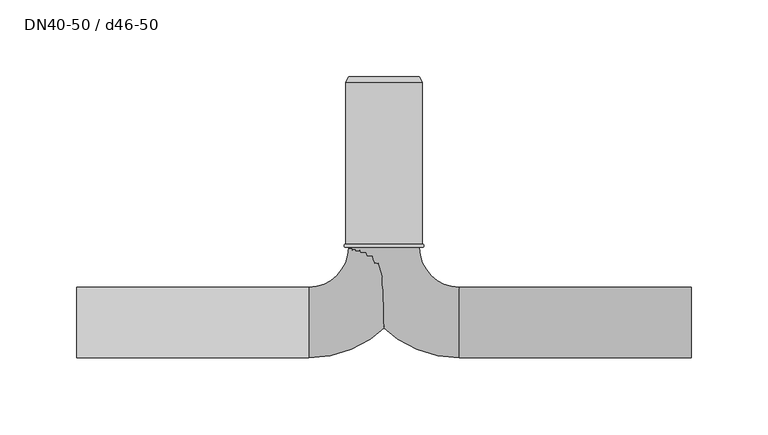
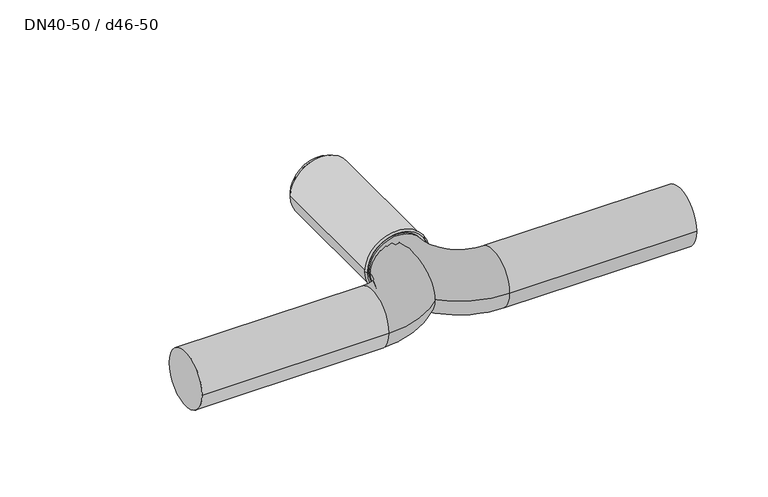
"""IFC4 building model written with IfcOpenShell, lengths in millimetres: pipe fitting geometry, NLRS_52_PIF_UN_Geberit Silent-PP dubbele aansluitbocht 90° verlengd_PRO_101522 : DN40-50 / d46-50."""

from ifc_helpers import new_model, si_unit, point, frame, origin, place, context, project, spatial, polyline, circle_curve, ellipse_curve, trimmed, source, transform, mapped, element, save
from ifc_brep_helpers import plane_surface, cylinder_surface, revolved_surface, advanced_brep


def dn40_50_d46_50_a84adbf5(model_context):
    return source(origin(), model_context, "Body", "AdvancedBrep", [
        advanced_brep(
        [(25.0, 49.0, 0.0), (-25.0, 49.0, 0.0), (-25.0, 51.0, 0.0), (25.0, 51.0, 0.0)],
        [
            (0, 1, circle_curve(frame((0.0, 49.0, 0.0), z_axis=(0.0, 1.0, 0.0), x_axis=(-0.9999999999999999, 0.0, 0.0)), 25.0)),
            (1, 2, circle_curve(frame((-25.0, 50.0, 0.0), z_axis=(0.0, 0.0, -0.9999999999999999), x_axis=(0.0, 1.0, 0.0)), 1.0)),
            (2, 3, circle_curve(frame((0.0, 51.0, 0.0), z_axis=(0.0, -1.0, 0.0), x_axis=(-0.9999999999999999, 0.0, 0.0)), 25.0)),
            (3, 0, circle_curve(frame((25.0, 50.0, 0.0), z_axis=(0.0, 0.0, -0.9999999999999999), x_axis=(0.0, 1.0, 0.0)), 1.0)),
            (1, 0, circle_curve(frame((0.0, 49.0, 0.0), z_axis=(0.0, 1.0, 0.0), x_axis=(-0.9999999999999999, 0.0, 0.0)), 25.0)),
            (3, 2, circle_curve(frame((0.0, 51.0, 0.0), z_axis=(0.0, -1.0, 0.0), x_axis=(-0.9999999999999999, 0.0, 0.0)), 25.0)),
            (2, 1),
            (0, 3),
        ],
        [
            revolved_surface(trimmed(ellipse_curve(frame((-25.0, 50.0, 0.0), z_axis=(0.0, 0.0, 0.9999999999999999), x_axis=(0.0, 1.0, 0.0)), 1.0, 1.0), [point((-25.0, 51.0, 0.0))], [point((-25.0, 49.0, 0.0))], True, "CARTESIAN"), (0.0, 39.3909381, 0.0), (0.0, -1.0, 0.0)),
            revolved_surface(polyline([(-24.999999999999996, 49.0, 0.0), (-24.999999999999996, 51.0, 0.0)]), (0.0, 39.3909381, 0.0), (0.0, -1.0, 0.0)),
        ],
        [
            (0, [[1, 2, 3, 4]]),
            (0, [[5, -4, 6, -2]]),
            (1, [[-3, 7, -1, 8]]),
            (1, [[-6, -8, -5, -7]]),
        ],
    ),
        advanced_brep(
        [(23.0, 160.0, 0.0), (-23.0, 160.0, 0.0), (0.0, 160.0, 0.0), (25.0, 156.5358984, 0.0), (-25.0, 156.5358984, 0.0), (25.0, 51.0, 0.0), (-25.0, 51.0, 0.0), (0.0, 51.0, 0.0)],
        [
            (0, 1, circle_curve(frame((0.0, 160.0, 0.0), z_axis=(0.0, 1.0, 0.0), x_axis=(-0.9999999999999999, 0.0, 0.0)), 23.0)),
            (1, 2),
            (2, 0),
            (1, 0, circle_curve(frame((0.0, 160.0, 0.0), z_axis=(0.0, 1.0, 0.0), x_axis=(-0.9999999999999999, 0.0, 0.0)), 23.0)),
            (3, 4, circle_curve(frame((0.0, 156.5358984, 0.0), z_axis=(0.0, 1.0, 0.0), x_axis=(-0.9999999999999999, 0.0, 0.0)), 25.0)),
            (4, 1),
            (0, 3),
            (4, 3, circle_curve(frame((0.0, 156.5358984, 0.0), z_axis=(0.0, 1.0, 0.0), x_axis=(-0.9999999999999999, 0.0, 0.0)), 25.0)),
            (5, 6, circle_curve(frame((0.0, 51.0, 0.0), z_axis=(0.0, 1.0, 0.0), x_axis=(-0.9999999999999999, 0.0, 0.0)), 25.0)),
            (6, 4),
            (3, 5),
            (6, 5, circle_curve(frame((0.0, 51.0, 0.0), z_axis=(0.0, 1.0, 0.0), x_axis=(-0.9999999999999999, 0.0, 0.0)), 25.0)),
            (7, 6),
            (5, 7),
        ],
        [
            plane_surface(frame((0.0, 160.0, 0.0), z_axis=(0.0, 1.0, 0.0), x_axis=(-1.0, 0.0, 0.0))),
            revolved_surface(polyline([(-23.0, 160.0, 0.0), (-25.0, 156.5358984, 0.0)]), (0.0, 175.0, 0.0), (0.0, -1.0, 0.0)),
            cylinder_surface(frame((0.0, 175.0, 0.0), z_axis=(0.0, -1.0, 0.0), x_axis=(-0.9999999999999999, 0.0, 0.0)), 25.0),
            plane_surface(frame((0.0, 51.0, 0.0), z_axis=(0.0, -1.0, 0.0), x_axis=(-1.0, 0.0, 0.0))),
        ],
        [
            (0, [[1, 2, 3]]),
            (0, [[4, -3, -2]]),
            (1, [[5, 6, -1, 7]]),
            (1, [[8, -7, -4, -6]]),
            (2, [[9, 10, -5, 11]]),
            (2, [[12, -11, -8, -10]]),
            (3, [[13, -9, 14]]),
            (3, [[-14, -12, -13]]),
        ],
    ),
        advanced_brep(
        [(-23.0, 51.0, 0.0), (23.0, 51.0, 0.0), (49.0, -23.0, 0.0), (49.0, 23.0, 0.0), (200.0, 23.0, 0.0), (200.0, -23.0, 0.0), (-23.0, 49.0, 0.0), (23.0, 49.0, 0.0)],
        [
            (0, 1, circle_curve(frame((0.0, 51.0, 0.0), z_axis=(0.0, 1.0, 0.0), x_axis=(1.0, 0.0, 0.0)), 23.0)),
            (1, 0, circle_curve(frame((0.0, 51.0, 0.0), z_axis=(0.0, 1.0, 0.0), x_axis=(1.0, 0.0, 0.0)), 23.0)),
            (2, 3, circle_curve(frame((49.0, 0.0, 0.0), z_axis=(1.0, 0.0, 0.0), x_axis=(0.0, 1.0, 0.0)), 23.0)),
            (3, 4),
            (4, 5, circle_curve(frame((200.0, 0.0, 0.0), z_axis=(-1.0, 0.0, 0.0), x_axis=(0.0, 1.0, 0.0)), 23.0)),
            (5, 2),
            (3, 2, circle_curve(frame((49.0, 0.0, 0.0), z_axis=(1.0, 0.0, 0.0), x_axis=(0.0, 1.0, 0.0)), 23.0)),
            (5, 4, circle_curve(frame((200.0, 0.0, 0.0), z_axis=(-1.0, 0.0, 0.0), x_axis=(0.0, 1.0, 0.0)), 23.0)),
            (2, 6, circle_curve(frame((49.0, 49.0, 0.0), z_axis=(0.0, 0.0, -1.0), x_axis=(-1.0, 0.0, 0.0)), 72.0)),
            (6, 7, circle_curve(frame((0.0, 49.0, 0.0), z_axis=(0.0, -1.0, 0.0), x_axis=(1.0, 0.0, 0.0)), 23.0)),
            (7, 3, circle_curve(frame((49.0, 49.0, 0.0), z_axis=(0.0, 0.0, 1.0), x_axis=(-1.0, 0.0, 0.0)), 26.0)),
            (7, 6, circle_curve(frame((0.0, 49.0, 0.0), z_axis=(0.0, -1.0, 0.0), x_axis=(1.0, 0.0, 0.0)), 23.0)),
            (1, 7),
            (6, 0),
        ],
        [
            plane_surface(frame((0.0, 51.0, 0.0), z_axis=(0.0, 1.0, 0.0), x_axis=(0.0, 0.0, 1.0))),
            cylinder_surface(frame((49.0, 0.0, 0.0), z_axis=(-1.0, 0.0, 0.0), x_axis=(0.0, 1.0, 0.0)), 23.0),
            revolved_surface(trimmed(ellipse_curve(frame((0.0, 49.0, 0.0), z_axis=(0.0, 1.0, 0.0), x_axis=(1.0, 0.0, 0.0)), 23.0, 23.0), [point((23.0, 49.0, 0.0))], [point((-23.0, 49.0, 0.0))], True, "CARTESIAN"), (49.0, 49.0, 0.0), (0.0, 0.0, 1.0)),
            revolved_surface(trimmed(ellipse_curve(frame((0.0, 49.0, 0.0), z_axis=(0.0, 1.0, 0.0), x_axis=(1.0, 0.0, 0.0)), 23.0, 23.0), [point((-23.0, 49.0, 0.0))], [point((23.0, 49.0, 0.0))], True, "CARTESIAN"), (49.0, 49.0, 0.0), (0.0, 0.0, 1.0)),
            plane_surface(frame((200.0, 0.0, 0.0), z_axis=(1.0, 0.0, 0.0), x_axis=(0.0, 0.0, 1.0))),
            cylinder_surface(frame((0.0, 51.0, 0.0), z_axis=(0.0, 1.0, 0.0), x_axis=(1.0, 0.0, 0.0)), 23.0),
        ],
        [
            (0, [[1, 2]]),
            (1, [[3, 4, 5, 6]]),
            (1, [[7, -6, 8, -4]]),
            (2, [[9, 10, 11, -3]]),
            (3, [[-11, 12, -9, -7]]),
            (4, [[-5, -8]]),
            (5, [[-2, 13, -10, 14]]),
            (5, [[-1, -14, -12, -13]]),
        ],
    ),
        advanced_brep(
        [(-23.0, 51.0, 0.0), (23.0, 51.0, 0.0), (-49.0, -23.0, 0.0), (-49.0, 23.0, 0.0), (-200.0, 23.0, 0.0), (-200.0, -23.0, 0.0), (23.0, 49.0, 0.0), (-23.0, 49.0, 0.0)],
        [
            (0, 1, circle_curve(frame((0.0, 51.0, 0.0), z_axis=(0.0, 1.0, 0.0), x_axis=(1.0, 0.0, 0.0)), 23.0)),
            (1, 0, circle_curve(frame((0.0, 51.0, 0.0), z_axis=(0.0, 1.0, 0.0), x_axis=(1.0, 0.0, 0.0)), 23.0)),
            (2, 3, circle_curve(frame((-49.0, 0.0, 0.0), z_axis=(-1.0, 0.0, 0.0), x_axis=(0.0, -1.0, 0.0)), 23.0)),
            (3, 4),
            (4, 5, circle_curve(frame((-200.0, 0.0, 0.0), z_axis=(1.0, 0.0, 0.0), x_axis=(0.0, -1.0, 0.0)), 23.0)),
            (5, 2),
            (3, 2, circle_curve(frame((-49.0, 0.0, 0.0), z_axis=(-1.0, 0.0, 0.0), x_axis=(0.0, -1.0, 0.0)), 23.0)),
            (5, 4, circle_curve(frame((-200.0, 0.0, 0.0), z_axis=(1.0, 0.0, 0.0), x_axis=(0.0, -1.0, 0.0)), 23.0)),
            (2, 6, circle_curve(frame((-49.0, 49.0, 0.0), z_axis=(0.0, 0.0, 1.0), x_axis=(1.0, 0.0, 0.0)), 72.0)),
            (6, 7, circle_curve(frame((0.0, 49.0, 0.0), z_axis=(0.0, -1.0, 0.0), x_axis=(1.0, 0.0, 0.0)), 23.0)),
            (7, 3, circle_curve(frame((-49.0, 49.0, 0.0), z_axis=(0.0, 0.0, -1.0), x_axis=(1.0, 0.0, 0.0)), 26.0)),
            (7, 6, circle_curve(frame((0.0, 49.0, 0.0), z_axis=(0.0, -1.0, 0.0), x_axis=(1.0, 0.0, 0.0)), 23.0)),
            (0, 7),
            (6, 1),
        ],
        [
            plane_surface(frame((0.0, 51.0, 0.0), z_axis=(0.0, 1.0, 0.0), x_axis=(0.0, 0.0, 1.0))),
            cylinder_surface(frame((-49.0, 0.0, 0.0), z_axis=(1.0, 0.0, 0.0), x_axis=(0.0, -1.0, 0.0)), 23.0),
            revolved_surface(trimmed(ellipse_curve(frame((0.0, 49.0, 0.0), z_axis=(0.0, 1.0, 0.0), x_axis=(1.0, 0.0, 0.0)), 23.0, 23.0), [point((-23.0, 49.0, 0.0))], [point((23.0, 49.0, 0.0))], True, "CARTESIAN"), (-49.0, 49.0, 0.0), (0.0, 0.0, -1.0)),
            revolved_surface(trimmed(ellipse_curve(frame((0.0, 49.0, 0.0), z_axis=(0.0, 1.0, 0.0), x_axis=(1.0, 0.0, 0.0)), 23.0, 23.0), [point((23.0, 49.0, 0.0))], [point((-23.0, 49.0, 0.0))], True, "CARTESIAN"), (-49.0, 49.0, 0.0), (0.0, 0.0, -1.0)),
            plane_surface(frame((-200.0, 0.0, 0.0), z_axis=(-1.0, 0.0, 0.0), x_axis=(0.0, 0.0, 1.0))),
            cylinder_surface(frame((0.0, 51.0, 0.0), z_axis=(0.0, 1.0, 0.0), x_axis=(1.0, 0.0, 0.0)), 23.0),
        ],
        [
            (0, [[1, 2]]),
            (1, [[3, 4, 5, 6]]),
            (1, [[7, -6, 8, -4]]),
            (2, [[9, 10, 11, -3]]),
            (3, [[-11, 12, -9, -7]]),
            (4, [[-8, -5]]),
            (5, [[-1, 13, -10, 14]]),
            (5, [[-2, -14, -12, -13]]),
        ],
    ),
    ])


if __name__ == "__main__":
    model = new_model("IFC4")
    model_context = context("Model", 3, world=origin())
    ifc_project = project(units=[si_unit("LENGTHUNIT", "METRE", prefix="MILLI")], contexts=[model_context])
    site = spatial("IfcSite", under=ifc_project)
    building = spatial("IfcBuilding", under=site)
    placement = place(None, origin())
    dn40_50_d46_50_shape = dn40_50_d46_50_a84adbf5(model_context)
    element("IfcPipeFitting", 1, ObjectType="NLRS_52_PIF_UN_Geberit Silent-PP dubbele aansluitbocht 90° verlengd_PRO_101522 : DN40-50 / d46-50", at=placement, inside=building, context=model_context, shape_type="MappedRepresentation", body=[
        mapped(dn40_50_d46_50_shape, transform((0.0, 0.0, 0.0), x_axis=(1.0, 0.0, 0.0), y_axis=(0.0, 1.0, 0.0), z_axis=(0.0, 0.0, 1.0))),
    ])
    save(model, "model.ifc")
